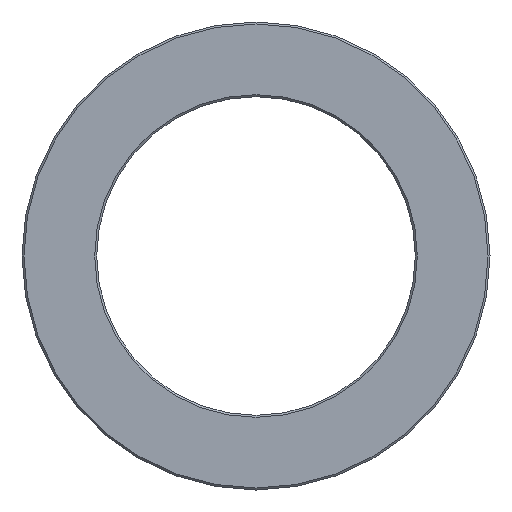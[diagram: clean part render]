
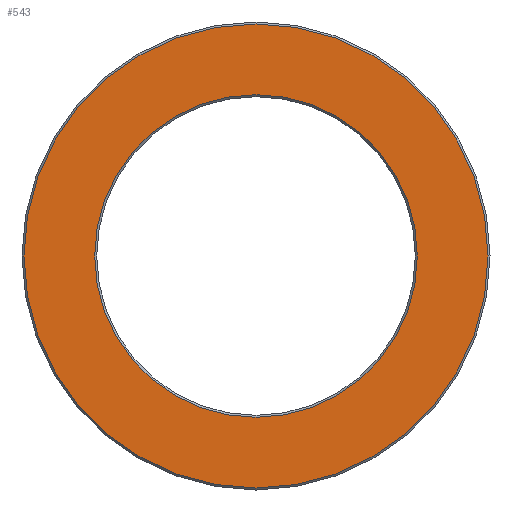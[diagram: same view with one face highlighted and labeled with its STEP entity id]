
A CAD part, left-side view. The second image highlights one B-rep face of the part: STEP entity #543.
In plain terms, the highlighted planar face has unit normal (-1, 0, 0).
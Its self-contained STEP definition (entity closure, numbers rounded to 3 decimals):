
#18 = DIRECTION ( 'NONE',  ( 0., -1., 0. ) ) ;
#19 = DIRECTION ( 'NONE',  ( -1., 0., 0. ) ) ;
#20 = CARTESIAN_POINT ( 'NONE',  ( -27., 0., 0. ) ) ;
#117 = DIRECTION ( 'NONE',  ( 0., -1., 0. ) ) ;
#119 = PLANE ( 'NONE',  #587 ) ;
#121 = FACE_BOUND ( 'NONE', #337, .T. ) ;
#122 = CARTESIAN_POINT ( 'NONE',  ( -27., 16., 0. ) ) ;
#124 = DIRECTION ( 'NONE',  ( -1., 0., 0. ) ) ;
#127 = FACE_OUTER_BOUND ( 'NONE', #325, .T. ) ;
#210 = CARTESIAN_POINT ( 'NONE',  ( -27., -23.3, 0. ) ) ;
#217 = CARTESIAN_POINT ( 'NONE',  ( -27., -16.2, 0. ) ) ;
#220 = CARTESIAN_POINT ( 'NONE',  ( -27., 16.2, 0. ) ) ;
#264 = ORIENTED_EDGE ( 'NONE', *, *, #719, .T. ) ;
#265 = ORIENTED_EDGE ( 'NONE', *, *, #764, .T. ) ;
#266 = ORIENTED_EDGE ( 'NONE', *, *, #763, .T. ) ;
#269 = ORIENTED_EDGE ( 'NONE', *, *, #745, .T. ) ;
#281 = VERTEX_POINT ( 'NONE', #359 ) ;
#325 = EDGE_LOOP ( 'NONE', ( #265, #264 ) ) ;
#337 = EDGE_LOOP ( 'NONE', ( #269, #266 ) ) ;
#338 = VERTEX_POINT ( 'NONE', #217 ) ;
#339 = VERTEX_POINT ( 'NONE', #220 ) ;
#350 = VERTEX_POINT ( 'NONE', #210 ) ;
#359 = CARTESIAN_POINT ( 'NONE',  ( -27., 23.3, 0. ) ) ;
#439 = DIRECTION ( 'NONE',  ( 0., -1., 0. ) ) ;
#440 = DIRECTION ( 'NONE',  ( -1., 0., 0. ) ) ;
#441 = CARTESIAN_POINT ( 'NONE',  ( -27., 0., 0. ) ) ;
#442 = DIRECTION ( 'NONE',  ( 0., -1., 0. ) ) ;
#443 = DIRECTION ( 'NONE',  ( 1., 0., 0. ) ) ;
#444 = CARTESIAN_POINT ( 'NONE',  ( -27., 0., 0. ) ) ;
#477 = DIRECTION ( 'NONE',  ( 1., 0., 0. ) ) ;
#478 = CARTESIAN_POINT ( 'NONE',  ( -27., 0., 0. ) ) ;
#482 = DIRECTION ( 'NONE',  ( 0., -1., 0. ) ) ;
#543 = ADVANCED_FACE ( 'NONE', ( #121, #127 ), #119, .T. ) ;
#587 = AXIS2_PLACEMENT_3D ( 'NONE', #122, #124, #117 ) ;
#615 = CIRCLE ( 'NONE', #628, 23.3 ) ;
#628 = AXIS2_PLACEMENT_3D ( 'NONE', #20, #19, #18 ) ;
#666 = AXIS2_PLACEMENT_3D ( 'NONE', #478, #477, #482 ) ;
#668 = CIRCLE ( 'NONE', #666, 16.2 ) ;
#689 = CIRCLE ( 'NONE', #692, 16.2 ) ;
#692 = AXIS2_PLACEMENT_3D ( 'NONE', #444, #443, #442 ) ;
#697 = CIRCLE ( 'NONE', #699, 23.3 ) ;
#699 = AXIS2_PLACEMENT_3D ( 'NONE', #441, #440, #439 ) ;
#719 = EDGE_CURVE ( 'NONE', #350, #281, #615, .T. ) ;
#745 = EDGE_CURVE ( 'NONE', #338, #339, #668, .T. ) ;
#763 = EDGE_CURVE ( 'NONE', #339, #338, #689, .T. ) ;
#764 = EDGE_CURVE ( 'NONE', #281, #350, #697, .T. ) ;
